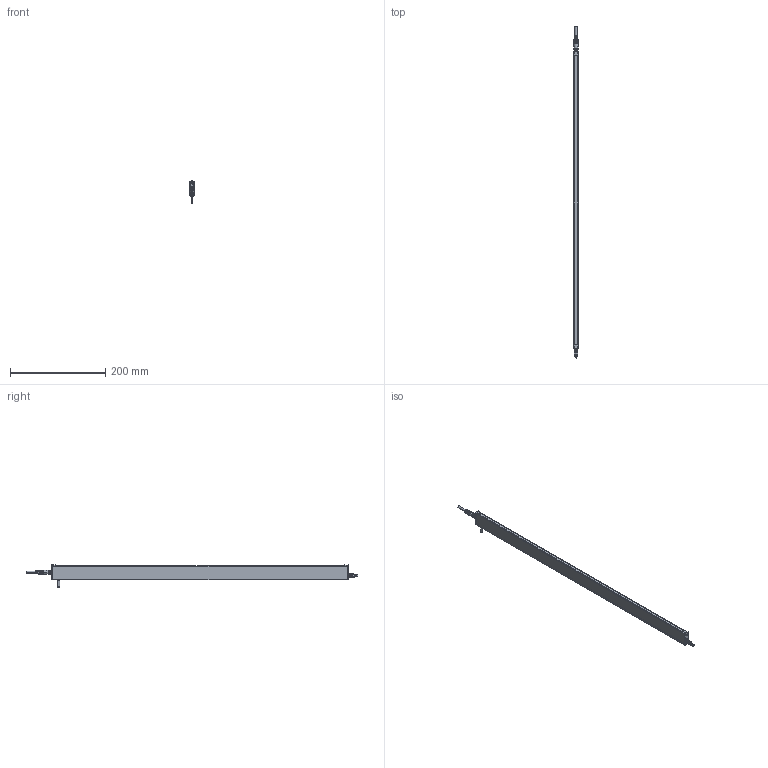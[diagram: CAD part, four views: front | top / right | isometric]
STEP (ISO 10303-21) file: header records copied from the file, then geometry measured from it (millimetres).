
FILE_DESCRIPTION (( 'STEP AP214' ), '1' );
FILE_NAME ('ILG-B-K2-0623mm.STEP', '2017-07-10T12:46:15', ( '' ), ( '' ), 'SwSTEP 2.0', 'SolidWorks 2016', '' );
FILE_SCHEMA (( 'AUTOMOTIVE_DESIGN' ));
Length unit declared in the file: millimetre
Products named in the file (1): ILG-B-K2-0623mm
Bounding box: 9 x 696.5 x 46.21 mm (x, y, z)
Surface area: 107676.1 mm2 (no closed solid volume)
Topology: 0 solids, 14 shells, 693 faces, 1806 edges, 1147 vertices
Faces by surface type: cylinder 283, plane 263, cone 97, bspline 32, torus 18
Entity records: 31061 total; most frequent: CARTESIAN_POINT 6596, ORIENTED_EDGE 3565, DIRECTION 3444, EDGE_CURVE 1790, AXIS2_PLACEMENT_3D 1323, VERTEX_POINT 1147, LINE 798, VECTOR 798
